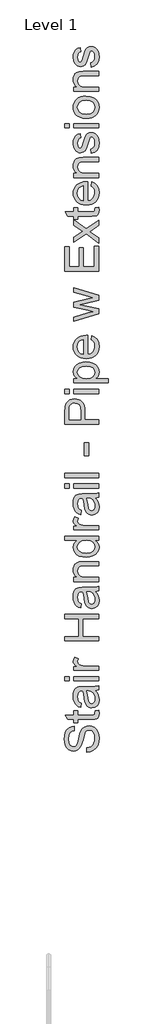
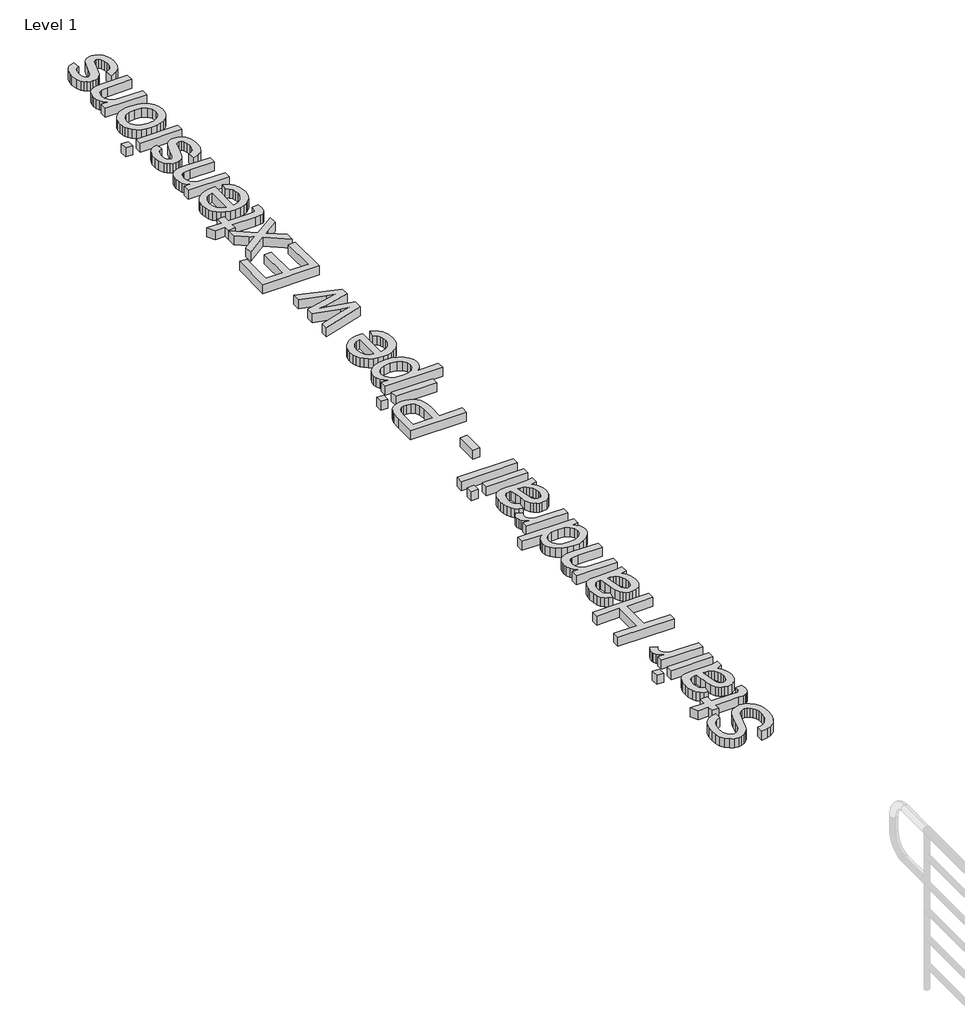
# One storey, part 12 of 14: 1 proxy.
"""IFC4 building model written with IfcOpenShell, lengths in millimetres."""

from ifc_helpers import new_model, si_unit, origin, origin_with_axes, place, context, project, spatial, polyline, outline, extrude, element, save

model = new_model("IFC4")

# Units and contexts
model_context = context("Model", 3, world=origin())
ifc_project = project(units=[si_unit("LENGTHUNIT", "METRE", prefix="MILLI")], contexts=[model_context])

# Site, building, storey
site = spatial("IfcSite", under=ifc_project)
building = spatial("IfcBuilding", under=site)
storey = spatial("IfcBuildingStorey", under=building, Name="Level 1", Elevation=0.0)

# Proxy
placement = place(None, origin())
element("IfcBuildingElementProxy", 1, Name="12\" Arial", ObjectType="12\" Arial", at=placement, inside=storey, context=model_context, shape_type="SweptSolid", body=[
    extrude(outline(polyline([(-1157.6754903, -3231.2378994), (-1157.6754903, -3193.7240533), (-1136.8578701, -3189.419486), (-1120.1250095, -3181.6346302), (-1106.8449615, -3169.4902552), (-1096.3857788, -3152.1071302), (-1089.5992163, -3130.8590533), (-1087.3370288, -3107.1198225), (-1089.049697, -3086.2197744), (-1094.1877019, -3067.9207841), (-1102.3205865, -3053.0929235), (-1113.0178942, -3042.6062648), (-1125.299649, -3036.3692216), (-1138.1858749, -3034.2902071), (-1150.7423894, -3035.8471783), (-1161.5953942, -3040.5180917), (-1170.8547932, -3050.0064571), (-1178.6304903, -3066.0157841), (-1192.9546249, -3120.6379956), (-1202.4338317, -3156.4941254), (-1211.4551057, -3179.4365533), (-1224.0757307, -3198.1110485), (-1239.3706826, -3211.3453033), (-1257.0102499, -3219.2309042), (-1276.6647211, -3221.8594379), (-1298.6363317, -3218.6081158), (-1319.1242403, -3208.8541494), (-1336.489048, -3192.8539812), (-1349.0913557, -3170.8640533), (-1356.757149, -3144.4688129), (-1359.3124134, -3115.2527071), (-1356.6380865, -3083.6003994), (-1348.6151057, -3055.9046302), (-1335.4083269, -3033.1545341), (-1317.1826057, -3016.3392456), (-1295.0736153, -3005.6968898), (-1270.2170288, -3001.4655917), (-1270.2170288, -3038.9794379), (-1292.6007788, -3045.8667456), (-1308.7566442, -3060.2275148), (-1318.5380865, -3082.6662167), (-1321.7985672, -3113.7873225), (-1318.5747211, -3145.6411206), (-1308.9031826, -3167.4936687), (-1294.6706345, -3180.132611), (-1277.7637595, -3184.3455917), (-1263.3480384, -3181.3598706), (-1251.7531826, -3172.4027071), (-1241.3855865, -3151.2278994), (-1230.7981826, -3111.1496302), (-1220.7419807, -3069.7891494), (-1211.9679903, -3044.7677071), (-1198.3582307, -3023.3822504), (-1181.5612595, -3008.4628033), (-1161.7602499, -2999.6979716), (-1139.1383749, -2996.776361), (-1116.012774, -3000.1375869), (-1094.2609711, -3010.2212648), (-1075.5406826, -3026.6152552), (-1061.5096249, -3048.9074187), (-1052.7447932, -3075.7147985), (-1049.8231826, -3105.6544379), (-1052.9737595, -3142.4081158), (-1062.4254903, -3172.6591494), (-1078.2150095, -3196.7555677), (-1100.3789519, -3215.0453994), (-1127.3786634, -3226.7867937), (-1157.6754903, -3231.2378994)])), origin_with_axes(), (0.0, 0.0, 1.0), 50.8),
    extrude(outline(polyline([(-1085.7983749, -2865.4778994), (-1053.4133749, -2860.7886687), (-1049.8231826, -2888.8507841), (-1051.3801538, -2906.8566975), (-1056.0510672, -2920.2832841), (-1063.2497692, -2929.7716494), (-1072.3901057, -2935.9628994), (-1088.0880384, -2939.3699187), (-1114.9595288, -2940.5055917), (-1237.3924134, -2940.5055917), (-1237.3924134, -2968.6409764), (-1274.9062595, -2968.6409764), (-1274.9062595, -2940.5055917), (-1328.4660672, -2940.5055917), (-1350.5201057, -2902.9917456), (-1274.9062595, -2902.9917456), (-1274.9062595, -2865.4778994), (-1237.3924134, -2865.4778994), (-1237.3924134, -2902.9917456), (-1116.0585672, -2902.9917456), (-1096.7154903, -2901.0134764), (-1089.8648172, -2894.6024187), (-1087.3370288, -2881.8169379), (-1085.7983749, -2865.4778994)])), origin_with_axes(), (0.0, 0.0, 1.0), 50.8),
    extrude(outline(polyline([(-1082.647798, -2687.2871302), (-1067.2795769, -2705.2106158), (-1057.2233749, -2723.6653033), (-1051.6732307, -2743.0724908), (-1049.8231826, -2763.8534764), (-1054.2742884, -2795.2035485), (-1067.6276057, -2818.3291494), (-1087.9048653, -2832.5891735), (-1113.127798, -2837.3425148), (-1128.6791922, -2835.5474187), (-1142.8018365, -2830.1621302), (-1154.8912595, -2821.8552312), (-1164.3429903, -2811.2953033), (-1176.6522211, -2785.0282841), (-1182.2939519, -2752.5700148), (-1188.2287595, -2714.2135725), (-1195.1893365, -2687.5069379), (-1203.5420288, -2687.2871302), (-1220.284048, -2689.8698706), (-1231.237798, -2697.6180917), (-1239.3706826, -2714.9462648), (-1242.0816442, -2739.0884764), (-1240.2773894, -2761.4355917), (-1234.8646249, -2777.0419379), (-1224.8542163, -2787.6842937), (-1209.2570288, -2795.1394379), (-1213.9462595, -2832.6532841), (-1234.4616442, -2826.1414812), (-1250.5808749, -2816.4241494), (-1262.908423, -2802.5945821), (-1272.0487595, -2783.7460725), (-1277.7088076, -2760.6937408), (-1279.5954903, -2734.2527071), (-1277.9286153, -2708.8923946), (-1272.9279903, -2688.7891494), (-1265.4087355, -2673.6315773), (-1256.1859711, -2663.1082841), (-1244.783447, -2656.1293898), (-1230.7249134, -2651.6050148), (-1197.900298, -2649.7732841), (-1151.227798, -2649.7732841), (-1086.0548172, -2647.8682841), (-1054.5124134, -2640.3948225), (-1054.5124134, -2677.9086687), (-1082.647798, -2687.2871302)]), holes=[polyline([(-1157.6754903, -2687.2871302), (-1146.1722211, -2747.8075148), (-1140.0908749, -2780.082611), (-1130.1995288, -2794.6998225), (-1115.7654903, -2799.8286687), (-1104.6102499, -2797.0352792), (-1095.4699134, -2788.655111), (-1089.3702499, -2774.8713369), (-1087.3370288, -2755.8671302), (-1089.580899, -2735.7180917), (-1096.3125095, -2717.9136687), (-1106.2313317, -2703.4796302), (-1118.0368365, -2693.4417456), (-1130.1995288, -2688.9906398), (-1147.0514519, -2687.5069379), (-1157.6754903, -2687.2871302)])]), origin_with_axes(), (0.0, 0.0, 1.0), 50.8),
    extrude(outline(polyline([(-1317.1093365, -2598.1917456), (-1354.6231826, -2598.1917456), (-1354.6231826, -2560.6778994), (-1317.1093365, -2560.6778994), (-1317.1093365, -2598.1917456)])), origin_with_axes(), (0.0, 0.0, 1.0), 50.8),
    extrude(outline(polyline([(-1054.5124134, -2598.1917456), (-1274.9062595, -2598.1917456), (-1274.9062595, -2560.6778994), (-1054.5124134, -2560.6778994), (-1054.5124134, -2598.1917456)])), origin_with_axes(), (0.0, 0.0, 1.0), 50.8),
    extrude(outline(polyline([(-1054.5124134, -2504.4071302), (-1274.9062595, -2504.4071302), (-1274.9062595, -2471.5825148), (-1242.3014519, -2471.5825148), (-1261.2049134, -2459.4564571), (-1272.3418365, -2448.2828994), (-1277.7820769, -2437.0727071), (-1279.5954903, -2424.8367456), (-1276.7013557, -2406.1530917), (-1268.0189519, -2387.176361), (-1234.3883749, -2399.7053994), (-1240.1583269, -2412.893861), (-1242.0816442, -2426.0823225), (-1240.2315961, -2437.2833562), (-1234.6814519, -2447.2937648), (-1225.8525095, -2455.3808562), (-1214.1660672, -2460.8119379), (-1193.2110672, -2465.3729475), (-1170.3510672, -2466.8932841), (-1054.5124134, -2466.8932841), (-1054.5124134, -2504.4071302)])), origin_with_axes(), (0.0, 0.0, 1.0), 50.8),
    extrude(outline(polyline([(-1054.5124134, -2241.8102071), (-1354.6231826, -2241.8102071), (-1354.6231826, -2204.296361), (-1232.7031826, -2204.296361), (-1232.7031826, -2044.8625148), (-1354.6231826, -2044.8625148), (-1354.6231826, -2007.3486687), (-1054.5124134, -2007.3486687), (-1054.5124134, -2044.8625148), (-1195.1893365, -2044.8625148), (-1195.1893365, -2204.296361), (-1054.5124134, -2204.296361), (-1054.5124134, -2241.8102071)])), origin_with_axes(), (0.0, 0.0, 1.0), 50.8),
    extrude(outline(polyline([(-1082.647798, -1805.7117456), (-1067.2795769, -1823.6352312), (-1057.2233749, -1842.0899187), (-1051.6732307, -1861.4971062), (-1049.8231826, -1882.2780917), (-1054.2742884, -1913.6281639), (-1067.6276057, -1936.7537648), (-1087.9048653, -1951.0137889), (-1113.127798, -1955.7671302), (-1128.6791922, -1953.9720341), (-1142.8018365, -1948.5867456), (-1154.8912595, -1940.2798466), (-1164.3429903, -1929.7199187), (-1176.6522211, -1903.4528994), (-1182.2939519, -1870.9946302), (-1188.2287595, -1832.6381879), (-1195.1893365, -1805.9315533), (-1203.5420288, -1805.7117456), (-1220.284048, -1808.294486), (-1231.237798, -1816.0427071), (-1239.3706826, -1833.3708802), (-1242.0816442, -1857.5130917), (-1240.2773894, -1879.8602071), (-1234.8646249, -1895.4665533), (-1224.8542163, -1906.1089091), (-1209.2570288, -1913.5640533), (-1213.9462595, -1951.0778994), (-1234.4616442, -1944.5660966), (-1250.5808749, -1934.8487648), (-1262.908423, -1921.0191975), (-1272.0487595, -1902.1706879), (-1277.7088076, -1879.1183562), (-1279.5954903, -1852.6773225), (-1277.9286153, -1827.31701), (-1272.9279903, -1807.2137648), (-1265.4087355, -1792.0561927), (-1256.1859711, -1781.5328994), (-1244.783447, -1774.5540052), (-1230.7249134, -1770.0296302), (-1197.900298, -1768.1978994), (-1151.227798, -1768.1978994), (-1086.0548172, -1766.2928994), (-1054.5124134, -1758.8194379), (-1054.5124134, -1796.3332841), (-1082.647798, -1805.7117456)]), holes=[polyline([(-1157.6754903, -1805.7117456), (-1146.1722211, -1866.2321302), (-1140.0908749, -1898.5072264), (-1130.1995288, -1913.1244379), (-1115.7654903, -1918.2532841), (-1104.6102499, -1915.4598946), (-1095.4699134, -1907.0797264), (-1089.3702499, -1893.2959523), (-1087.3370288, -1874.2917456), (-1089.580899, -1854.1427071), (-1096.3125095, -1836.3382841), (-1106.2313317, -1821.9042456), (-1118.0368365, -1811.866361), (-1130.1995288, -1807.4152552), (-1147.0514519, -1805.9315533), (-1157.6754903, -1805.7117456)])]), origin_with_axes(), (0.0, 0.0, 1.0), 50.8),
    extrude(outline(polyline([(-1054.5124134, -1716.616361), (-1274.9062595, -1716.616361), (-1274.9062595, -1679.1025148), (-1244.1331826, -1679.1025148), (-1259.6479422, -1666.0697504), (-1270.7299134, -1650.417611), (-1277.3790961, -1632.1460966), (-1279.5954903, -1611.2552071), (-1277.8095528, -1592.763885), (-1272.4517403, -1575.8295341), (-1264.1906345, -1561.7068898), (-1253.6948172, -1551.6506879), (-1226.1089519, -1540.403861), (-1189.8406826, -1538.4255917), (-1054.5124134, -1538.4255917), (-1054.5124134, -1575.9394379), (-1184.7851057, -1575.9394379), (-1217.9760672, -1580.2623225), (-1227.8582547, -1586.2429235), (-1235.524048, -1595.5389571), (-1240.4422451, -1607.4543658), (-1242.0816442, -1621.2930917), (-1238.3998653, -1643.2647023), (-1227.3545288, -1661.9941494), (-1218.3378341, -1669.4790593), (-1206.0148653, -1674.8254235), (-1171.4501057, -1679.1025148), (-1054.5124134, -1679.1025148), (-1054.5124134, -1716.616361)])), origin_with_axes(), (0.0, 0.0, 1.0), 50.8),
    extrude(outline(polyline([(-1054.5124134, -1350.856361), (-1089.9014519, -1350.856361), (-1072.3672091, -1362.0802913), (-1059.8427499, -1375.6763129), (-1052.3280745, -1391.6444259), (-1049.8231826, -1409.9846302), (-1053.4500095, -1434.2367456), (-1064.3304903, -1456.4373225), (-1081.7044567, -1475.2308802), (-1104.8117403, -1489.2619379), (-1132.7181586, -1497.9992937), (-1164.4895288, -1500.9117456), (-1195.8670769, -1498.22826), (-1224.2039519, -1490.1778033), (-1247.8882307, -1476.7695341), (-1265.3079903, -1458.012611), (-1276.0236153, -1435.3266254), (-1279.5954903, -1410.1311687), (-1277.0402259, -1391.7772264), (-1269.3744326, -1375.5480917), (-1257.6238797, -1361.7917937), (-1242.8143365, -1350.856361), (-1354.6231826, -1350.856361), (-1354.6231826, -1313.3425148), (-1054.5124134, -1313.3425148), (-1054.5124134, -1350.856361)]), holes=[polyline([(-1164.6360672, -1463.3978994), (-1130.7032547, -1459.1666014), (-1106.5702019, -1446.4727071), (-1092.145322, -1428.0271783), (-1087.3370288, -1406.5409764), (-1091.9255144, -1385.0639331), (-1105.6909711, -1367.0854956), (-1128.8898413, -1354.9136446), (-1161.7785672, -1350.856361), (-1197.7354422, -1354.9869139), (-1222.665298, -1367.3785725), (-1237.2275576, -1385.8149427), (-1242.0816442, -1408.0796302), (-1237.4198894, -1429.7856398), (-1223.4346249, -1447.5717456), (-1199.4114759, -1459.441361), (-1164.6360672, -1463.3978994)])]), origin_with_axes(), (0.0, 0.0, 1.0), 50.8),
    extrude(outline(polyline([(-1054.5124134, -1257.0717456), (-1274.9062595, -1257.0717456), (-1274.9062595, -1224.2471302), (-1242.3014519, -1224.2471302), (-1261.2049134, -1212.1210725), (-1272.3418365, -1200.9475148), (-1277.7820769, -1189.7373225), (-1279.5954903, -1177.501361), (-1276.7013557, -1158.8177071), (-1268.0189519, -1139.8409764), (-1234.3883749, -1152.3700148), (-1240.1583269, -1165.5584764), (-1242.0816442, -1178.7469379), (-1240.2315961, -1189.9479716), (-1234.6814519, -1199.9583802), (-1225.8525095, -1208.0454716), (-1214.1660672, -1213.4765533), (-1193.2110672, -1218.0375629), (-1170.3510672, -1219.5578994), (-1054.5124134, -1219.5578994), (-1054.5124134, -1257.0717456)])), origin_with_axes(), (0.0, 0.0, 1.0), 50.8),
    extrude(outline(polyline([(-1082.647798, -975.7178994), (-1067.2795769, -993.641385), (-1057.2233749, -1012.0960725), (-1051.6732307, -1031.50326), (-1049.8231826, -1052.2842456), (-1054.2742884, -1083.6343177), (-1067.6276057, -1106.7599187), (-1087.9048653, -1121.0199427), (-1113.127798, -1125.7732841), (-1128.6791922, -1123.9781879), (-1142.8018365, -1118.5928994), (-1154.8912595, -1110.2860004), (-1164.3429903, -1099.7260725), (-1176.6522211, -1073.4590533), (-1182.2939519, -1041.0007841), (-1188.2287595, -1002.6443417), (-1195.1893365, -975.9377071), (-1203.5420288, -975.7178994), (-1220.284048, -978.3006398), (-1231.237798, -986.048861), (-1239.3706826, -1003.3770341), (-1242.0816442, -1027.5192456), (-1240.2773894, -1049.866361), (-1234.8646249, -1065.4727071), (-1224.8542163, -1076.1150629), (-1209.2570288, -1083.5702071), (-1213.9462595, -1121.0840533), (-1234.4616442, -1114.5722504), (-1250.5808749, -1104.8549187), (-1262.908423, -1091.0253514), (-1272.0487595, -1072.1768417), (-1277.7088076, -1049.12451), (-1279.5954903, -1022.6834764), (-1277.9286153, -997.3231639), (-1272.9279903, -977.2199187), (-1265.4087355, -962.0623466), (-1256.1859711, -951.5390533), (-1244.783447, -944.5601591), (-1230.7249134, -940.0357841), (-1197.900298, -938.2040533), (-1151.227798, -938.2040533), (-1086.0548172, -936.2990533), (-1054.5124134, -928.8255917), (-1054.5124134, -966.3394379), (-1082.647798, -975.7178994)]), holes=[polyline([(-1157.6754903, -975.7178994), (-1146.1722211, -1036.2382841), (-1140.0908749, -1068.5133802), (-1130.1995288, -1083.1305917), (-1115.7654903, -1088.2594379), (-1104.6102499, -1085.4660485), (-1095.4699134, -1077.0858802), (-1089.3702499, -1063.3021062), (-1087.3370288, -1044.2978994), (-1089.580899, -1024.148861), (-1096.3125095, -1006.3444379), (-1106.2313317, -991.9103994), (-1118.0368365, -981.8725148), (-1130.1995288, -977.4214091), (-1147.0514519, -975.9377071), (-1157.6754903, -975.7178994)])]), origin_with_axes(), (0.0, 0.0, 1.0), 50.8),
    extrude(outline(polyline([(-1317.1093365, -886.6225148), (-1354.6231826, -886.6225148), (-1354.6231826, -849.1086687), (-1317.1093365, -849.1086687), (-1317.1093365, -886.6225148)])), origin_with_axes(), (0.0, 0.0, 1.0), 50.8),
    extrude(outline(polyline([(-1054.5124134, -886.6225148), (-1274.9062595, -886.6225148), (-1274.9062595, -849.1086687), (-1054.5124134, -849.1086687), (-1054.5124134, -886.6225148)])), origin_with_axes(), (0.0, 0.0, 1.0), 50.8),
    extrude(outline(polyline([(-1054.5124134, -792.8378994), (-1354.6231826, -792.8378994), (-1354.6231826, -755.3240533), (-1054.5124134, -755.3240533), (-1054.5124134, -792.8378994)])), origin_with_axes(), (0.0, 0.0, 1.0), 50.8),
    extrude(outline(polyline([(-1143.607798, -600.5794379), (-1181.1216442, -600.5794379), (-1181.1216442, -483.3486687), (-1143.607798, -483.3486687), (-1143.607798, -600.5794379)])), origin_with_axes(), (0.0, 0.0, 1.0), 50.8),
    extrude(outline(polyline([(-1054.5124134, -319.2255917), (-1354.6231826, -319.2255917), (-1354.6231826, -208.0028994), (-1351.7656826, -163.1621302), (-1346.4261874, -143.1687889), (-1337.7346249, -126.7106879), (-1325.297173, -113.4581158), (-1308.7200095, -103.081361), (-1289.1662836, -96.3772264), (-1267.7991442, -94.1425148), (-1249.376512, -95.651403), (-1232.428423, -100.1780677), (-1216.9548773, -107.7225088), (-1202.9558749, -118.2847264), (-1191.3518605, -132.7851651), (-1183.0632788, -152.1442696), (-1178.0901297, -176.3620401), (-1176.4324134, -205.4384764), (-1176.4324134, -281.7117456), (-1054.5124134, -281.7117456), (-1054.5124134, -319.2255917)]), holes=[polyline([(-1213.9462595, -281.7117456), (-1213.9462595, -203.2403994), (-1217.3899134, -169.9761687), (-1227.7208749, -147.9953994), (-1244.2980384, -135.7411206), (-1266.480298, -131.656361), (-1283.3322211, -134.0650869), (-1297.5464519, -141.2912648), (-1308.2437595, -152.4373466), (-1314.5449134, -166.6057841), (-1317.1093365, -204.1196302), (-1317.1093365, -281.7117456), (-1213.9462595, -281.7117456)])]), origin_with_axes(), (0.0, 0.0, 1.0), 50.8),
    extrude(outline(polyline([(-1317.1093365, -47.2502071), (-1354.6231826, -47.2502071), (-1354.6231826, -9.736361), (-1317.1093365, -9.736361), (-1317.1093365, -47.2502071)])), origin_with_axes(), (0.0, 0.0, 1.0), 50.8),
    extrude(outline(polyline([(-1054.5124134, -47.2502071), (-1274.9062595, -47.2502071), (-1274.9062595, -9.736361), (-1054.5124134, -9.736361), (-1054.5124134, -47.2502071)])), origin_with_axes(), (0.0, 0.0, 1.0), 50.8),
    extrude(outline(polyline([(-970.1062595, 46.5344083), (-1274.9062595, 46.5344083), (-1274.9062595, 84.0482544), (-1238.1251057, 84.0482544), (-1256.268399, 96.2842159), (-1269.2278942, 109.9855621), (-1277.0035913, 125.9582544), (-1279.5954903, 145.0082544), (-1275.9686634, 170.3777256), (-1265.0881826, 192.5599852), (-1247.6134711, 210.6208506), (-1224.2039519, 223.626139), (-1196.5631345, 231.484264), (-1166.3945288, 234.103639), (-1134.3117644, 231.1453938), (-1105.6177019, 222.2706583), (-1081.7685672, 207.7633506), (-1064.2205865, 187.907389), (-1053.4225336, 164.7817881), (-1049.8231826, 140.4655621), (-1052.2319086, 123.2198169), (-1059.4580865, 107.8241198), (-1070.3660432, 94.6448169), (-1083.8201057, 84.0482544), (-970.1062595, 84.0482544), (-970.1062595, 46.5344083)]), holes=[polyline([(-1162.9508749, 84.0482544), (-1129.320298, 88.1055381), (-1105.8008749, 100.277389), (-1091.9529903, 118.2375092), (-1087.3370288, 139.6596006), (-1092.1178461, 161.4297208), (-1106.460298, 179.8477736), (-1130.8406345, 192.4042881), (-1165.7351057, 196.5897929), (-1199.1825095, 192.5050333), (-1223.0316442, 180.2507544), (-1237.3191442, 162.3181102), (-1242.0816442, 141.1982544), (-1237.0169086, 119.9959708), (-1221.8227019, 101.3764275), (-1196.975274, 88.3802977), (-1162.9508749, 84.0482544)])]), origin_with_axes(), (0.0, 0.0, 1.0), 50.8),
    extrude(outline(polyline([(-1120.1616442, 430.6117159), (-1115.4724134, 467.3928698), (-1087.7583269, 454.1402977), (-1067.0414519, 432.9929659), (-1054.1277499, 404.4271246), (-1049.8231826, 368.9190236), (-1051.6800997, 345.6423049), (-1057.2508509, 324.9025333), (-1066.5354362, 306.6997087), (-1079.5338557, 291.0338313), (-1095.8843425, 278.436103), (-1115.2251297, 269.4377256), (-1137.5562175, 264.0386991), (-1162.8776057, 262.2390236), (-1189.0576177, 264.0570164), (-1212.1328461, 269.5109948), (-1232.1032908, 278.6009587), (-1248.9689519, 291.3269083), (-1262.3680624, 306.9515717), (-1271.9388557, 324.7376775), (-1277.6813317, 344.6852256), (-1279.5954903, 366.7942159), (-1277.685911, 388.191121), (-1271.957173, 407.5410669), (-1262.4092764, 424.8440537), (-1249.0422211, 440.1000813), (-1232.2131946, 452.5535609), (-1212.2793845, 461.4489034), (-1189.2407908, 466.786109), (-1163.0974134, 468.5651775), (-1152.9862595, 468.3453698), (-1152.9862595, 299.7528698), (-1124.9058269, 306.2463554), (-1104.2622211, 321.3306583), (-1091.5683269, 343.1007784), (-1087.3370288, 369.6517159), (-1089.2969807, 389.6175813), (-1095.1768365, 406.4328698), (-1105.3429422, 420.0975813), (-1120.1616442, 430.6117159)]), holes=[polyline([(-1190.5001057, 299.7528698), (-1190.5001057, 431.0513313), (-1210.3194326, 425.9774371), (-1224.4970288, 416.031139), (-1237.6854903, 394.1602736), (-1242.0816442, 366.6476775), (-1238.5738797, 341.3606342), (-1228.0505865, 320.4514275), (-1211.6474374, 305.9166438), (-1190.5001057, 299.7528698)])]), origin_with_axes(), (0.0, 0.0, 1.0), 50.8),
    extrude(outline(polyline([(-1054.5124134, 659.871139), (-1274.9062595, 592.8297929), (-1274.9062595, 631.8090236), (-1146.3187595, 669.8357544), (-1100.3789519, 681.1924852), (-1144.6335672, 690.4976775), (-1274.9062595, 720.7578698), (-1274.9062595, 765.4521006), (-1144.9999134, 795.5657544), (-1104.9216442, 803.8451775), (-1147.1979903, 815.7147929), (-1274.9062595, 853.8147929), (-1274.9062595, 892.9405621), (-1054.5124134, 825.3863313), (-1054.5124134, 780.0326775), (-1183.7593365, 751.2378698), (-1224.0574134, 742.8851775), (-1054.5124134, 705.7376775), (-1054.5124134, 659.871139)])), origin_with_axes(), (0.0, 0.0, 1.0), 50.8),
    extrude(outline(polyline([(-1054.5124134, 1040.6513313), (-1354.6231826, 1040.6513313), (-1354.6231826, 1256.3559467), (-1317.1093365, 1256.3559467), (-1317.1093365, 1078.1651775), (-1228.0139519, 1078.1651775), (-1228.0139519, 1246.9774852), (-1190.5001057, 1246.9774852), (-1190.5001057, 1078.1651775), (-1092.0262595, 1078.1651775), (-1092.0262595, 1261.0451775), (-1054.5124134, 1261.0451775), (-1054.5124134, 1040.6513313)])), origin_with_axes(), (0.0, 0.0, 1.0), 50.8),
    extrude(outline(polyline([(-1054.5124134, 1289.1805621), (-1165.2954903, 1369.3371006), (-1274.9062595, 1293.8697929), (-1274.9062595, 1339.003639), (-1222.1524134, 1375.4184467), (-1197.2408749, 1392.4169083), (-1217.6097211, 1407.1440236), (-1274.9062595, 1448.6144083), (-1274.9062595, 1493.7482544), (-1165.2954903, 1414.4709467), (-1054.5124134, 1490.8174852), (-1054.5124134, 1445.683639), (-1121.1141442, 1399.7438313), (-1133.2768365, 1391.3178698), (-1054.5124134, 1334.3144083), (-1054.5124134, 1289.1805621)])), origin_with_axes(), (0.0, 0.0, 1.0), 50.8),
    extrude(outline(polyline([(-1085.7983749, 1603.3590236), (-1053.4133749, 1608.0482544), (-1049.8231826, 1579.986139), (-1051.3801538, 1561.9802256), (-1056.0510672, 1548.553639), (-1063.2497692, 1539.0652736), (-1072.3901057, 1532.8740236), (-1088.0880384, 1529.4670044), (-1114.9595288, 1528.3313313), (-1237.3924134, 1528.3313313), (-1237.3924134, 1500.1959467), (-1274.9062595, 1500.1959467), (-1274.9062595, 1528.3313313), (-1328.4660672, 1528.3313313), (-1350.5201057, 1565.8451775), (-1274.9062595, 1565.8451775), (-1274.9062595, 1603.3590236), (-1237.3924134, 1603.3590236), (-1237.3924134, 1565.8451775), (-1116.0585672, 1565.8451775), (-1096.7154903, 1567.8234467), (-1089.8648172, 1574.2345044), (-1087.3370288, 1587.0199852), (-1085.7983749, 1603.3590236)])), origin_with_axes(), (0.0, 0.0, 1.0), 50.8),
    extrude(outline(polyline([(-1120.1616442, 1795.1778698), (-1115.4724134, 1831.9590236), (-1087.7583269, 1818.7064515), (-1067.0414519, 1797.5591198), (-1054.1277499, 1768.9932784), (-1049.8231826, 1733.4851775), (-1051.6800997, 1710.2084587), (-1057.2508509, 1689.4686871), (-1066.5354362, 1671.2658626), (-1079.5338557, 1655.5999852), (-1095.8843425, 1643.0022568), (-1115.2251297, 1634.0038794), (-1137.5562175, 1628.604853), (-1162.8776057, 1626.8051775), (-1189.0576177, 1628.6231703), (-1212.1328461, 1634.0771486), (-1232.1032908, 1643.1671126), (-1248.9689519, 1655.8930621), (-1262.3680624, 1671.5177256), (-1271.9388557, 1689.3038313), (-1277.6813317, 1709.2513794), (-1279.5954903, 1731.3603698), (-1277.685911, 1752.7572748), (-1271.957173, 1772.1072208), (-1262.4092764, 1789.4102075), (-1249.0422211, 1804.6662352), (-1232.2131946, 1817.1197147), (-1212.2793845, 1826.0150573), (-1189.2407908, 1831.3522628), (-1163.0974134, 1833.1313313), (-1152.9862595, 1832.9115236), (-1152.9862595, 1664.3190236), (-1124.9058269, 1670.8125092), (-1104.2622211, 1685.8968121), (-1091.5683269, 1707.6669323), (-1087.3370288, 1734.2178698), (-1089.2969807, 1754.1837352), (-1095.1768365, 1770.9990236), (-1105.3429422, 1784.6637352), (-1120.1616442, 1795.1778698)]), holes=[polyline([(-1190.5001057, 1664.3190236), (-1190.5001057, 1795.6174852), (-1210.3194326, 1790.5435909), (-1224.4970288, 1780.5972929), (-1237.6854903, 1758.7264275), (-1242.0816442, 1731.2138313), (-1238.5738797, 1705.9267881), (-1228.0505865, 1685.0175813), (-1211.6474374, 1670.4827977), (-1190.5001057, 1664.3190236)])]), origin_with_axes(), (0.0, 0.0, 1.0), 50.8),
    extrude(outline(polyline([(-1054.5124134, 1870.6451775), (-1274.9062595, 1870.6451775), (-1274.9062595, 1908.1590236), (-1244.1331826, 1908.1590236), (-1259.6479422, 1921.1917881), (-1270.7299134, 1936.8439275), (-1277.3790961, 1955.1154419), (-1279.5954903, 1976.0063313), (-1277.8095528, 1994.4976534), (-1272.4517403, 2011.4320044), (-1264.1906345, 2025.5546486), (-1253.6948172, 2035.6108506), (-1226.1089519, 2046.8576775), (-1189.8406826, 2048.8359467), (-1054.5124134, 2048.8359467), (-1054.5124134, 2011.3221006), (-1184.7851057, 2011.3221006), (-1217.9760672, 2006.9992159), (-1227.8582547, 2001.018615), (-1235.524048, 1991.7225813), (-1240.4422451, 1979.8071727), (-1242.0816442, 1965.9684467), (-1238.3998653, 1943.9968361), (-1227.3545288, 1925.267389), (-1218.3378341, 1917.7824792), (-1206.0148653, 1912.436115), (-1171.4501057, 1908.1590236), (-1054.5124134, 1908.1590236), (-1054.5124134, 1870.6451775)])), origin_with_axes(), (0.0, 0.0, 1.0), 50.8),
    extrude(outline(polyline([(-1120.1616442, 2086.3497929), (-1124.8508749, 2123.863639), (-1108.8049134, 2129.7801294), (-1097.0085672, 2141.2284467), (-1089.7549134, 2158.2818602), (-1087.3370288, 2181.013639), (-1089.553423, 2203.4706583), (-1096.2026057, 2219.2601775), (-1105.8375095, 2228.6020044), (-1117.0110672, 2231.7159467), (-1126.5727019, 2228.5836871), (-1133.8629903, 2219.1869083), (-1144.560298, 2180.5740236), (-1162.9142403, 2124.0834467), (-1172.1370047, 2109.7867881), (-1184.3454903, 2099.4283506), (-1198.7612115, 2093.1363554), (-1214.6056826, 2091.0390236), (-1229.1404663, 2092.7242159), (-1242.5578942, 2097.7797929), (-1254.3267644, 2105.7478217), (-1263.9158749, 2116.1703698), (-1275.0161634, 2140.0195044), (-1279.5954903, 2172.2946006), (-1277.7546009, 2196.7115717), (-1272.2319326, 2217.9413313), (-1263.5678461, 2235.0130621), (-1252.3027019, 2246.9559467), (-1237.6030624, 2254.8690236), (-1218.6354903, 2259.8513313), (-1213.9462595, 2222.3374852), (-1225.7517644, 2217.6024611), (-1234.6448172, 2208.2331583), (-1240.2224374, 2194.13799), (-1242.0816442, 2175.2253698), (-1240.3048653, 2153.6842159), (-1234.9745288, 2139.3234467), (-1227.2812595, 2131.245514), (-1218.4156826, 2128.5528698), (-1207.4985672, 2133.0222929), (-1199.2191442, 2147.0167159), (-1191.232798, 2179.3284467), (-1173.5749134, 2234.3902736), (-1165.1306345, 2248.9342159), (-1153.5724134, 2259.9612352), (-1138.8636153, 2266.9126534), (-1120.9676057, 2269.2297929), (-1102.4671249, 2266.5096727), (-1085.0656826, 2258.3493121), (-1070.1279182, 2245.0601054), (-1059.0184711, 2226.9534467), (-1052.1220047, 2205.0825813), (-1049.8231826, 2180.5007544), (-1054.2559711, 2142.675514), (-1067.5543365, 2115.0713313), (-1089.5717403, 2096.6441198), (-1120.1616442, 2086.3497929)])), origin_with_axes(), (0.0, 0.0, 1.0), 50.8),
    extrude(outline(polyline([(-1317.1093365, 2311.4328698), (-1354.6231826, 2311.4328698), (-1354.6231826, 2348.9467159), (-1317.1093365, 2348.9467159), (-1317.1093365, 2311.4328698)])), origin_with_axes(), (0.0, 0.0, 1.0), 50.8),
    extrude(outline(polyline([(-1054.5124134, 2311.4328698), (-1274.9062595, 2311.4328698), (-1274.9062595, 2348.9467159), (-1054.5124134, 2348.9467159), (-1054.5124134, 2311.4328698)])), origin_with_axes(), (0.0, 0.0, 1.0), 50.8),
    extrude(outline(polyline([(-1164.7093365, 2395.8390236), (-1193.2522812, 2397.8676655), (-1217.8478461, 2403.9535909), (-1238.4960312, 2414.0968001), (-1255.1968365, 2428.2972929), (-1265.8712475, 2442.5939515), (-1273.4958269, 2458.3743121), (-1278.0705745, 2475.6383746), (-1279.5954903, 2494.386139), (-1277.7385733, 2515.0824071), (-1272.167822, 2533.7958265), (-1262.8832367, 2550.5263974), (-1249.8848172, 2565.2741198), (-1233.612179, 2577.3108806), (-1214.5049374, 2585.9085669), (-1192.5630925, 2591.0671787), (-1167.7866442, 2592.7867159), (-1129.8881345, 2589.7460429), (-1101.0383749, 2580.6240236), (-1079.4331105, 2565.6862592), (-1063.2680865, 2545.1983506), (-1053.1844086, 2520.8638073), (-1049.8231826, 2494.386139), (-1051.6732307, 2473.3876354), (-1057.2233749, 2454.5002015), (-1066.4736153, 2437.7238373), (-1079.4239519, 2423.0585429), (-1095.8545769, 2411.1500032), (-1115.5456826, 2402.6439034), (-1138.4972692, 2397.5402436), (-1164.7093365, 2395.8390236)]), holes=[polyline([(-1164.7826057, 2433.3528698), (-1130.8314759, 2437.6940717), (-1106.6434711, 2450.7176775), (-1092.1636394, 2470.3171967), (-1087.3370288, 2494.386139), (-1092.1911153, 2518.3451775), (-1106.7533749, 2537.9080621), (-1131.2619326, 2550.9316679), (-1165.9549134, 2555.2728698), (-1198.9169086, 2550.9041919), (-1222.7752019, 2537.7981583), (-1237.2550336, 2518.2077977), (-1242.0816442, 2494.386139), (-1237.2733509, 2470.3171967), (-1222.8484711, 2450.7176775), (-1198.7154182, 2437.6940717), (-1164.7826057, 2433.3528698)])]), origin_with_axes(), (0.0, 0.0, 1.0), 50.8),
    extrude(outline(polyline([(-1054.5124134, 2634.9897929), (-1274.9062595, 2634.9897929), (-1274.9062595, 2672.503639), (-1244.1331826, 2672.503639), (-1259.6479422, 2685.5364034), (-1270.7299134, 2701.1885429), (-1277.3790961, 2719.4600573), (-1279.5954903, 2740.3509467), (-1277.8095528, 2758.8422688), (-1272.4517403, 2775.7766198), (-1264.1906345, 2789.899264), (-1253.6948172, 2799.9554659), (-1226.1089519, 2811.2022929), (-1189.8406826, 2813.1805621), (-1054.5124134, 2813.1805621), (-1054.5124134, 2775.6667159), (-1184.7851057, 2775.6667159), (-1217.9760672, 2771.3438313), (-1227.8582547, 2765.3632304), (-1235.524048, 2756.0671967), (-1240.4422451, 2744.1517881), (-1242.0816442, 2730.3130621), (-1238.3998653, 2708.3414515), (-1227.3545288, 2689.6120044), (-1218.3378341, 2682.1270946), (-1206.0148653, 2676.7807304), (-1171.4501057, 2672.503639), (-1054.5124134, 2672.503639), (-1054.5124134, 2634.9897929)])), origin_with_axes(), (0.0, 0.0, 1.0), 50.8),
    extrude(outline(polyline([(-1120.1616442, 2850.6944083), (-1124.8508749, 2888.2082544), (-1108.8049134, 2894.1247448), (-1097.0085672, 2905.5730621), (-1089.7549134, 2922.6264756), (-1087.3370288, 2945.3582544), (-1089.553423, 2967.8152736), (-1096.2026057, 2983.6047929), (-1105.8375095, 2992.9466198), (-1117.0110672, 2996.0605621), (-1126.5727019, 2992.9283025), (-1133.8629903, 2983.5315236), (-1144.560298, 2944.918639), (-1162.9142403, 2888.4280621), (-1172.1370047, 2874.1314034), (-1184.3454903, 2863.7729659), (-1198.7612115, 2857.4809708), (-1214.6056826, 2855.383639), (-1229.1404663, 2857.0688313), (-1242.5578942, 2862.1244083), (-1254.3267644, 2870.0924371), (-1263.9158749, 2880.5149852), (-1275.0161634, 2904.3641198), (-1279.5954903, 2936.6392159), (-1277.7546009, 2961.0561871), (-1272.2319326, 2982.2859467), (-1263.5678461, 2999.3576775), (-1252.3027019, 3011.3005621), (-1237.6030624, 3019.213639), (-1218.6354903, 3024.1959467), (-1213.9462595, 2986.6821006), (-1225.7517644, 2981.9470765), (-1234.6448172, 2972.5777736), (-1240.2224374, 2958.4826054), (-1242.0816442, 2939.5699852), (-1240.3048653, 2918.0288313), (-1234.9745288, 2903.6680621), (-1227.2812595, 2895.5901294), (-1218.4156826, 2892.8974852), (-1207.4985672, 2897.3669083), (-1199.2191442, 2911.3613313), (-1191.232798, 2943.6730621), (-1173.5749134, 2998.734889), (-1165.1306345, 3013.2788313), (-1153.5724134, 3024.3058506), (-1138.8636153, 3031.2572688), (-1120.9676057, 3033.5744083), (-1102.4671249, 3030.8542881), (-1085.0656826, 3022.6939275), (-1070.1279182, 3009.4047208), (-1059.0184711, 2991.2980621), (-1052.1220047, 2969.4271967), (-1049.8231826, 2944.8453698), (-1054.2559711, 2907.0201294), (-1067.5543365, 2879.4159467), (-1089.5717403, 2860.9887352), (-1120.1616442, 2850.6944083)])), origin_with_axes(), (0.0, 0.0, 1.0), 50.8),
])

save(model, "model.ifc")
